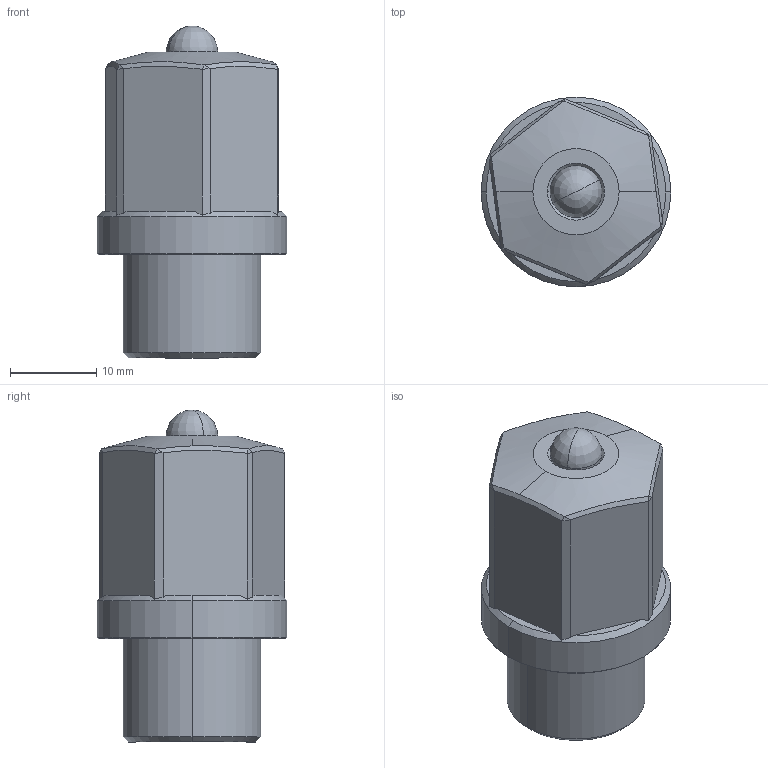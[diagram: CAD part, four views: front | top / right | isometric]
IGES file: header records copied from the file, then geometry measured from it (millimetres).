
Start section: SolidWorks IGES file using analytic representation for surfaces
Global section: file name: F:\TO4C-THREADED BODY-PUSHER\TO4C-M162.IGS; native system: SolidWorks 2019; preprocessor: SolidWorks 2019; author: ADMIN; date: 200710.113908; units: millimetre
Bounding box: 22 x 22 x 38.52 mm (x, y, z)
Volume: 9734.2 mm3; surface area: 3768.1 mm2
Topology: 2 solids, 2 shells, 67 faces, 146 edges, 85 vertices
Faces by surface type: plane 31, revolution 30, bspline 6
